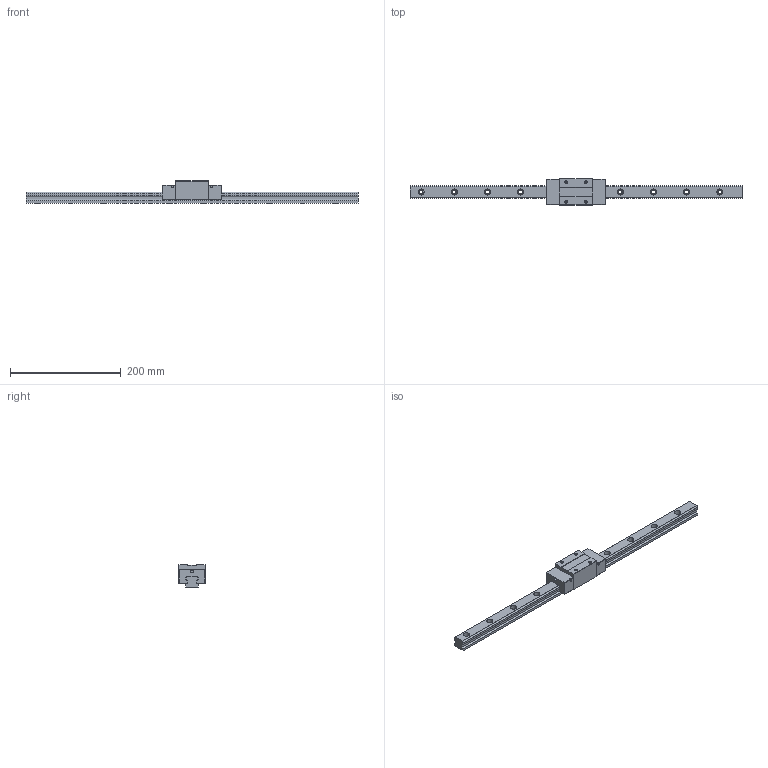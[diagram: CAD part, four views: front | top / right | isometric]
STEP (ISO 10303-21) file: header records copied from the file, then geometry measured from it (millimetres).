
FILE_DESCRIPTION (( 'STEP AP203' ), '1' );
FILE_NAME ('TRH25VN-DZ.STEP', '2024-07-10T08:07:04', ( '' ), ( '' ), 'SwSTEP 2.0', 'SolidWorks 2022', '' );
FILE_SCHEMA (( 'CONFIG_CONTROL_DESIGN' ));
Length unit declared in the file: millimetre
Products named in the file (1): TRH25VN-DZ
Bounding box: 600 x 48 x 40 mm (x, y, z)
Volume: 357202.8 mm3; surface area: 82419.7 mm2
Topology: 2 solids, 2 shells, 200 faces, 520 edges, 336 vertices
Faces by surface type: cylinder 96, plane 88, cone 16
Entity records: 6223 total; most frequent: DIRECTION 1114, CARTESIAN_POINT 1049, ORIENTED_EDGE 1024, EDGE_CURVE 512, AXIS2_PLACEMENT_3D 401, VERTEX_POINT 336, LINE 312, VECTOR 312
